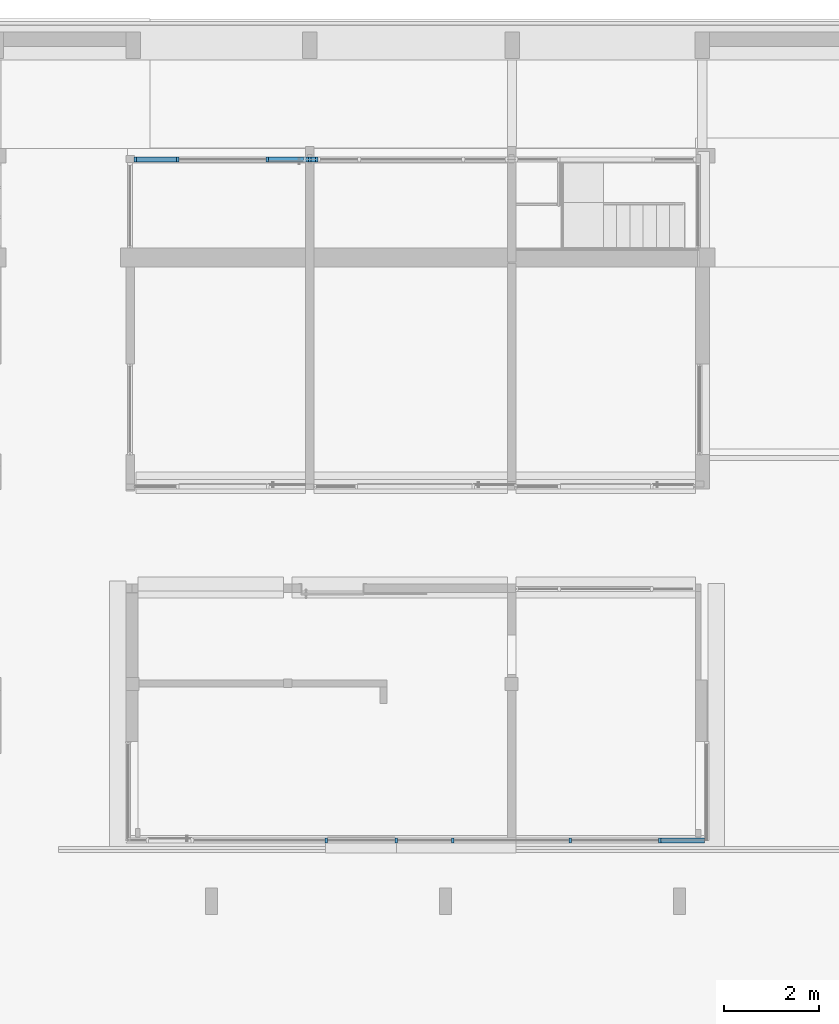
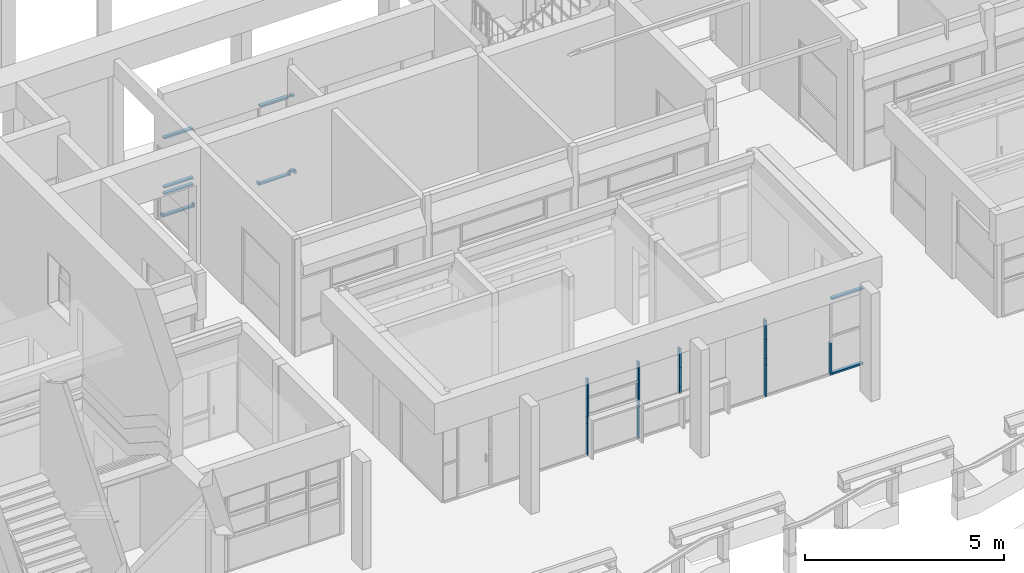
# One storey, part 19 of 117: 32 members, 2 elements without a shape of their own.
"""IFC4 building model written with IfcOpenShell, lengths in metres."""

import ifcopenshell
import ifcopenshell.guid

model = None  # the IFC model being written
_history = None  # IfcOwnerHistory: only IFC2X3 demands one
_inside = {}  # id of a spatial element -> (the spatial element, [elements in it])
_under = {}  # id of a project, library or spatial element -> (it, [spatial elements below it])
_declared = {}  # id of a project -> (the project, [libraries it declares])
_typed = {}  # id of a type object -> (the type object, [elements of that type])
_made_of = {}  # id of a material, layer set ... -> (it, [elements and type objects made of it])


def new_model(schema):
    """Start an empty IFC model of exactly this schema.

    Asked for "IFC4X3", IfcOpenShell would pick the latest addendum, in which some entities
    have other attributes; the version numbers below select the first issue.
    IFC2X3 requires an IfcOwnerHistory on every rooted entity: one is made here for all.
    """
    global model, _history
    if schema == "IFC4X3":
        model = ifcopenshell.file(schema_version=(4, 3, 0, 0))
    else:
        model = ifcopenshell.file(schema=schema)
    _inside.clear()
    _under.clear()
    _declared.clear()
    _typed.clear()
    _made_of.clear()
    _history = None
    if model.schema == "IFC2X3":
        org = make("IfcOrganization", Name="unknown")
        user = make(
            "IfcPersonAndOrganization",
            ThePerson=make("IfcPerson", FamilyName="unknown"),
            TheOrganization=org,
        )
        app = make(
            "IfcApplication",
            ApplicationDeveloper=org,
            Version="unknown",
            ApplicationFullName="unknown",
            ApplicationIdentifier="unknown",
        )
        _history = make(
            "IfcOwnerHistory",
            OwningUser=user,
            OwningApplication=app,
            ChangeAction="ADDED",
            CreationDate=0,
        )
    return model


def make(cls, **values):
    """One entity of the class cls with the attributes given. An attribute that is None is left unset."""
    return model.create_entity(
        cls, **{name: value for name, value in values.items() if value is not None}
    )


def entity(cls, *values):
    """Any entity or typed value of the class cls, its attributes in the order of the schema. None: left unset."""
    e = model.create_entity(cls)
    for i, value in enumerate(values):
        if value is not None:
            e[i] = value
    return e


def rooted(cls, **values):
    """An entity with a GlobalId (a new one), such as an element, a storey or a relation."""
    return make(cls, GlobalId=ifcopenshell.guid.new(), OwnerHistory=_history, **values)


def si_unit(unit_type, name, prefix=None):
    """IfcSIUnit, for example si_unit("LENGTHUNIT", "METRE", prefix="MILLI")."""
    return make("IfcSIUnit", UnitType=unit_type, Prefix=prefix, Name=name)


def converted_unit(unit_type, name, factor, base, dimensions=None, offset=None):
    """IfcConversionBasedUnit, such as the inch: factor (a typed value) times the base unit."""
    return make(
        "IfcConversionBasedUnit"
        if offset is None
        else "IfcConversionBasedUnitWithOffset",
        ConversionOffset=offset,
        Dimensions=None
        if dimensions is None
        else entity("IfcDimensionalExponents", *dimensions),
        UnitType=unit_type,
        Name=name,
        ConversionFactor=make(
            "IfcMeasureWithUnit", ValueComponent=factor, UnitComponent=base
        ),
    )


def derived_unit(unit_type, elements):
    """IfcDerivedUnit: a product of units, each with its exponent."""
    return make(
        "IfcDerivedUnit",
        Elements=[
            make("IfcDerivedUnitElement", Unit=unit, Exponent=power)
            for unit, power in elements
        ],
        UnitType=unit_type,
    )


def assignment(units):
    """IfcUnitAssignment: the units of a project."""
    return None if units is None else make("IfcUnitAssignment", Units=units)


def point(xyz):
    """IfcCartesianPoint."""
    return None if xyz is None else make("IfcCartesianPoint", Coordinates=xyz)


def direction(xyz):
    """IfcDirection."""
    return None if xyz is None else make("IfcDirection", DirectionRatios=xyz)


def frame(location, z_axis=None, x_axis=None):
    """IfcAxis2Placement3D, a coordinate frame: its origin and axes. An axis left out is left unset."""
    return make(
        "IfcAxis2Placement3D",
        Location=point(location),
        Axis=direction(z_axis),
        RefDirection=direction(x_axis),
    )


def origin():
    """The frame at (0, 0, 0) with its axes left unset."""
    return frame((0.0, 0.0, 0.0))


def place(relative_to, where):
    """IfcLocalPlacement: puts the frame where relative to a parent placement (None: the world)."""
    return make(
        "IfcLocalPlacement", PlacementRelTo=relative_to, RelativePlacement=where
    )


def context(
    kind, dimensions, precision=None, world=None, true_north=None, identifier=None
):
    """IfcGeometricRepresentationContext, for example the 3D "Model" context."""
    return make(
        "IfcGeometricRepresentationContext",
        ContextIdentifier=identifier,
        ContextType=kind,
        CoordinateSpaceDimension=dimensions,
        Precision=precision,
        WorldCoordinateSystem=world,
        TrueNorth=true_north,
    )


def subcontext(parent, identifier, kind, view, scale=None):
    """IfcGeometricRepresentationSubContext, for example "Body" below "Model"."""
    return make(
        "IfcGeometricRepresentationSubContext",
        ContextIdentifier=identifier,
        ContextType=kind,
        ParentContext=parent,
        TargetScale=scale,
        TargetView=view,
    )


def project(units=None, contexts=None):
    """IfcProject with its units and contexts."""
    return rooted(
        "IfcProject",
        Name="project",
        RepresentationContexts=contexts,
        UnitsInContext=assignment(units),
    )


def spatial(cls, under=None, at=None, **own):
    """A site, building, storey or space (cls), placed at a placement, below another one or the project."""
    s = rooted(cls, ObjectPlacement=at, **own)
    if under is not None:
        _under.setdefault(under.id(), (under, []))[1].append(s)
    return s


def point_list(points):
    """IfcCartesianPointList2D or 3D."""
    cls = (
        "IfcCartesianPointList2D" if len(points[0]) == 2 else "IfcCartesianPointList3D"
    )
    return make(cls, CoordList=points)


def indexed_curve(points, segments=None, self_intersect=None):
    """IfcIndexedPolyCurve: lines and arcs through numbered points (the first is 1)."""
    return make(
        "IfcIndexedPolyCurve",
        Points=point_list(points),
        Segments=segments,
        SelfIntersect=self_intersect,
    )


def outline(outer, holes=None, kind="AREA"):
    """IfcArbitraryClosedProfileDef: a profile drawn as a closed curve; with holes, ...WithVoids."""
    if holes is None:
        return make("IfcArbitraryClosedProfileDef", ProfileType=kind, OuterCurve=outer)
    return make(
        "IfcArbitraryProfileDefWithVoids",
        ProfileType=kind,
        OuterCurve=outer,
        InnerCurves=holes,
    )


def extrude(swept, where, along, depth):
    """IfcExtrudedAreaSolid: the profile swept, set in the frame where, extruded along a direction by depth."""
    return make(
        "IfcExtrudedAreaSolid",
        SweptArea=swept,
        Position=where,
        ExtrudedDirection=direction(along),
        Depth=depth,
    )


def shape(context_of_items, identifier, shape_type, items):
    """IfcShapeRepresentation: the items that make up one representation, for example the "Body"."""
    return make(
        "IfcShapeRepresentation",
        ContextOfItems=context_of_items,
        RepresentationIdentifier=identifier,
        RepresentationType=shape_type,
        Items=items,
    )


def source(mapping_origin, context_of_items, identifier, shape_type, items):
    """IfcRepresentationMap: a shape defined once, which mapped items show again and again."""
    return make(
        "IfcRepresentationMap",
        MappingOrigin=mapping_origin,
        MappedRepresentation=shape(context_of_items, identifier, shape_type, items),
    )


def transform(
    local_origin,
    x_axis=None,
    y_axis=None,
    z_axis=None,
    scale=None,
    scale2=None,
    scale3=None,
    uniform=True,
):
    """IfcCartesianTransformationOperator3D, or its non-uniform kind. x_axis, y_axis, z_axis: its Axis1, 2, 3."""
    if uniform:
        return make(
            "IfcCartesianTransformationOperator3D",
            Axis1=direction(x_axis),
            Axis2=direction(y_axis),
            LocalOrigin=point(local_origin),
            Scale=scale,
            Axis3=direction(z_axis),
        )
    return make(
        "IfcCartesianTransformationOperator3DnonUniform",
        Axis1=direction(x_axis),
        Axis2=direction(y_axis),
        LocalOrigin=point(local_origin),
        Scale=scale,
        Axis3=direction(z_axis),
        Scale2=scale2,
        Scale3=scale3,
    )


def mapped(mapping_source, mapping_target):
    """IfcMappedItem: shows the shape of a source again, moved by a transform."""
    return make(
        "IfcMappedItem", MappingSource=mapping_source, MappingTarget=mapping_target
    )


def material(Name=None, Category=None):
    """IfcMaterial."""
    return make("IfcMaterial", Name=Name, Category=Category)


def made_of(thing, what):
    """Note that an element or type object is made of a material, layer set ...; save() writes the relation."""
    if what is not None:
        _made_of.setdefault(what.id(), (what, []))[1].append(thing)
    return thing


def type_object(cls, material=None, **own):
    """A type object (cls), such as IfcWallType, which elements share."""
    return made_of(rooted(cls, **own), material)


def type_shapes(of_type, sources):
    """Give a type object the sources (RepresentationMaps) that its elements show as mapped items."""
    of_type.RepresentationMaps = sources


def element(
    cls,
    number,
    at=None,
    inside=None,
    cuts=None,
    type_object=None,
    material=None,
    context=None,
    identifier="Body",
    shape_type=None,
    held_by="IfcProductDefinitionShape",
    body=None,
    shapes=None,
    **own,
):
    """One element of the class cls, such as IfcWall. Its Tag is "e" and its number.

    at: its placement. inside: the storey or other place that contains it. cuts: it is an
    opening in that element (IfcRelVoidsElement). A single representation is given by context,
    identifier, shape_type and body (its items); several are given by shapes. held_by: the class
    of the entity that holds the representations. save() writes the other relations.
    """
    e = rooted(cls, Tag="e%d" % number, ObjectPlacement=at, **own)
    if body is not None:
        shapes = [shape(context, identifier, shape_type, body)]
    if shapes is not None:
        e.Representation = make(held_by, Representations=shapes)
    if inside is not None:
        _inside.setdefault(inside.id(), (inside, []))[1].append(e)
    if cuts is not None:
        rooted(
            "IfcRelVoidsElement", RelatingBuildingElement=cuts, RelatedOpeningElement=e
        )
    if type_object is not None:
        _typed.setdefault(type_object.id(), (type_object, []))[1].append(e)
    return made_of(e, material)


def aggregate(whole, parts):
    """IfcRelAggregates: a whole, such as a stair, and the parts it consists of."""
    return rooted("IfcRelAggregates", RelatingObject=whole, RelatedObjects=parts)


def save(model, path):
    """Write the relations noted so far, then the file.

    IfcRelAggregates (storeys below a building ...), IfcRelContainedInSpatialStructure (elements
    in a storey), IfcRelDefinesByType, IfcRelAssociatesMaterial and IfcRelDeclares: one each for
    every whole, place, type object, material and project.
    """
    for whole, parts in _under.values():
        aggregate(whole, parts)
    for where, things in _inside.values():
        rooted(
            "IfcRelContainedInSpatialStructure",
            RelatedElements=things,
            RelatingStructure=where,
        )
    for kind, things in _typed.values():
        rooted("IfcRelDefinesByType", RelatedObjects=things, RelatingType=kind)
    for what, things in _made_of.values():
        rooted("IfcRelAssociatesMaterial", RelatedObjects=things, RelatingMaterial=what)
    for by, libraries in _declared.values():
        rooted("IfcRelDeclares", RelatingContext=by, RelatedDefinitions=libraries)
    model.write(path)


model = new_model("IFC4")

# Units and contexts
model_context = context("Model", 3, precision=1e-05, world=origin(), true_north=direction((6.123031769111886e-17, 1.0)))
body_context = subcontext(model_context, "Body", "Model", "MODEL_VIEW")
ifc_project = project(units=[si_unit("LENGTHUNIT", "METRE"), si_unit("AREAUNIT", "SQUARE_METRE"), si_unit("VOLUMEUNIT", "CUBIC_METRE"), converted_unit("PLANEANGLEUNIT", "DEGREE", entity("IfcRatioMeasure", 0.017453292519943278), si_unit("PLANEANGLEUNIT", "RADIAN"), dimensions=[0, 0, 0, 0, 0, 0, 0]), si_unit("MASSUNIT", "GRAM", prefix="KILO"), derived_unit("MASSDENSITYUNIT", [(si_unit("MASSUNIT", "GRAM", prefix="KILO"), 1), (si_unit("LENGTHUNIT", "METRE"), -3)]), derived_unit("MOMENTOFINERTIAUNIT", [(si_unit("LENGTHUNIT", "METRE"), 4)]), si_unit("TIMEUNIT", "SECOND"), si_unit("FREQUENCYUNIT", "HERTZ"), si_unit("THERMODYNAMICTEMPERATUREUNIT", "DEGREE_CELSIUS"), derived_unit("THERMALTRANSMITTANCEUNIT", [(si_unit("MASSUNIT", "GRAM", prefix="KILO"), 1), (si_unit("THERMODYNAMICTEMPERATUREUNIT", "KELVIN"), -1), (si_unit("TIMEUNIT", "SECOND"), -3)]), derived_unit("VOLUMETRICFLOWRATEUNIT", [(si_unit("LENGTHUNIT", "METRE"), 3), (si_unit("TIMEUNIT", "SECOND"), -1)]), derived_unit("MASSFLOWRATEUNIT", [(si_unit("MASSUNIT", "GRAM", prefix="KILO"), 1), (si_unit("TIMEUNIT", "SECOND"), -1)]), derived_unit("ROTATIONALFREQUENCYUNIT", [(si_unit("TIMEUNIT", "SECOND"), -1)]), si_unit("ELECTRICCURRENTUNIT", "AMPERE"), si_unit("ELECTRICVOLTAGEUNIT", "VOLT"), si_unit("POWERUNIT", "WATT"), si_unit("FORCEUNIT", "NEWTON", prefix="KILO"), si_unit("ILLUMINANCEUNIT", "LUX"), si_unit("LUMINOUSFLUXUNIT", "LUMEN"), si_unit("LUMINOUSINTENSITYUNIT", "CANDELA"), derived_unit("USERDEFINED", [(si_unit("MASSUNIT", "GRAM", prefix="KILO"), -1), (si_unit("LENGTHUNIT", "METRE"), -2), (si_unit("TIMEUNIT", "SECOND"), 3), (si_unit("LUMINOUSFLUXUNIT", "LUMEN"), 1)]), derived_unit("SOUNDPOWERUNIT", [(si_unit("MASSUNIT", "GRAM", prefix="KILO"), 1), (si_unit("LENGTHUNIT", "METRE"), 2), (si_unit("TIMEUNIT", "SECOND"), -3)]), derived_unit("SOUNDPRESSUREUNIT", [(si_unit("MASSUNIT", "GRAM", prefix="KILO"), 1), (si_unit("LENGTHUNIT", "METRE"), -1), (si_unit("TIMEUNIT", "SECOND"), -2)]), derived_unit("LINEARVELOCITYUNIT", [(si_unit("LENGTHUNIT", "METRE"), 1), (si_unit("TIMEUNIT", "SECOND"), -1)]), si_unit("PRESSUREUNIT", "PASCAL"), derived_unit("USERDEFINED", [(si_unit("LENGTHUNIT", "METRE"), -2), (si_unit("MASSUNIT", "GRAM", prefix="KILO"), 1), (si_unit("TIMEUNIT", "SECOND"), -2)]), derived_unit("LINEARFORCEUNIT", [(si_unit("MASSUNIT", "GRAM", prefix="KILO"), 1), (si_unit("LENGTHUNIT", "METRE"), 1), (si_unit("TIMEUNIT", "SECOND"), -2), (si_unit("LENGTHUNIT", "METRE"), -1)]), derived_unit("PLANARFORCEUNIT", [(si_unit("MASSUNIT", "GRAM", prefix="KILO"), 1), (si_unit("LENGTHUNIT", "METRE"), 1), (si_unit("TIMEUNIT", "SECOND"), -2), (si_unit("LENGTHUNIT", "METRE"), -2)])], contexts=[model_context])

# Site, building, storey
site_placement = place(None, origin())
site = spatial("IfcSite", under=ifc_project, at=site_placement, Name="Superficie", CompositionType="ELEMENT")
building_placement = place(site_placement, origin())
building = spatial("IfcBuilding", under=site, at=building_placement, CompositionType="ELEMENT")
storey_placement = place(building_placement, origin())
storey = spatial("IfcBuildingStorey", under=building, at=storey_placement, Name="Nivel 0", CompositionType="ELEMENT", Elevation=0.0)

# Curtain wall, members
curtain_wall_type = type_object("IfcCurtainWallType", Name="Muro cortina:Muro cortina - simple", PredefinedType="NOTDEFINED")
curtain_wall_1_placement = place(storey_placement, origin())
curtain_wall_1 = element("IfcCurtainWall", 1, at=curtain_wall_1_placement, inside=storey, type_object=curtain_wall_type, Name="Muro cortina:Muro cortina - simple", ObjectType="Muro cortina:Muro cortina - simple", PredefinedType="NOTDEFINED")
ifc_material = material(Name="<Unnamed>")
member_type_1 = type_object("IfcMemberType", Name="Montante rectangular:Montante rectangular - 5 x 10 cm", PredefinedType="MULLION", material=ifc_material)
shared_shape_1 = source(origin(), body_context, "Body", "SweptSolid", [
    extrude(outline(indexed_curve([(-0.05, -0.025), (0.05, -0.025), (0.05, 0.025), (-0.05, 0.025), (-0.05, -0.025)], self_intersect=False)), frame((-0.025, 0.0, -0.8500000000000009), z_axis=(0.0, 0.0, 1.0), x_axis=(0.0, -1.0, 0.0)), (0.0, 0.0, 1.0), 0.849999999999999),
])
type_shapes(member_type_1, [shared_shape_1])
member_1_placement = place(curtain_wall_1_placement, frame((-12.487388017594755, 12.640829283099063, 2.44), z_axis=(-1.0, 0.0, 0.0), x_axis=(0.0, 0.0, 1.0)))
member_1 = element("IfcMember", 2, at=member_1_placement, type_object=member_type_1, material=ifc_material, Name="Montante rectangular:Montante rectangular - 5 x 10 cm", ObjectType="Montante rectangular:Montante rectangular - 5 x 10 cm", PredefinedType="MULLION", context=body_context, shape_type="MappedRepresentation", body=[
    mapped(shared_shape_1, transform((0.0, 0.0, 0.0), scale=1.0)),
])
member_2_placement = place(curtain_wall_1_placement, frame((-15.277388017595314, 12.640829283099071, 2.44), z_axis=(-1.0, 0.0, 0.0), x_axis=(0.0, 0.0, 1.0)))
member_2 = element("IfcMember", 3, at=member_2_placement, type_object=member_type_1, material=ifc_material, Name="Montante rectangular:Montante rectangular - 5 x 10 cm", ObjectType="Montante rectangular:Montante rectangular - 5 x 10 cm", PredefinedType="MULLION", context=body_context, shape_type="MappedRepresentation", body=[
    mapped(shared_shape_1, transform((0.0, 0.0, 0.0), scale=1.0)),
])
member_type_2 = type_object("IfcMemberType", Name="Montante rectangular:Montante rectangular - 5 x 10 cm", PredefinedType="MULLION", material=ifc_material)
shared_shape_2 = source(origin(), body_context, "Body", "SweptSolid", [
    extrude(outline(indexed_curve([(-0.05, -0.025), (0.05, -0.025), (0.05, 0.025), (-0.05, 0.025), (-0.05, -0.025)], self_intersect=False)), frame((0.0, 0.0, -0.8500000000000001), z_axis=(0.0, 0.0, 1.0), x_axis=(0.0, -1.0, 0.0)), (0.0, 0.0, 1.0), 0.8500000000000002),
])
type_shapes(member_type_2, [shared_shape_2])
member_3_placement = place(curtain_wall_1_placement, frame((-15.277388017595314, 12.640829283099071, 0.8999999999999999), z_axis=(-1.0, 0.0, 0.0), x_axis=(0.0, 0.0, 1.0)))
member_3 = element("IfcMember", 4, at=member_3_placement, type_object=member_type_2, material=ifc_material, Name="Montante rectangular:Montante rectangular - 5 x 10 cm", ObjectType="Montante rectangular:Montante rectangular - 5 x 10 cm", PredefinedType="MULLION", context=body_context, shape_type="MappedRepresentation", body=[
    mapped(shared_shape_2, transform((0.0, 0.0, 0.0), scale=1.0)),
])
member_4_placement = place(curtain_wall_1_placement, frame((-15.277388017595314, 12.640829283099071, 0.7), z_axis=(-1.0, 0.0, 0.0), x_axis=(0.0, 0.0, 1.0)))
member_4 = element("IfcMember", 5, at=member_4_placement, type_object=member_type_2, material=ifc_material, Name="Montante rectangular:Montante rectangular - 5 x 10 cm", ObjectType="Montante rectangular:Montante rectangular - 5 x 10 cm", PredefinedType="MULLION", context=body_context, shape_type="MappedRepresentation", body=[
    mapped(shared_shape_2, transform((0.0, 0.0, 0.0), scale=1.0)),
])

curtain_wall_2_placement = place(storey_placement, origin())
curtain_wall_2 = element("IfcCurtainWall", 6, at=curtain_wall_2_placement, inside=storey, type_object=curtain_wall_type, Name="Muro cortina:Muro cortina - simple", ObjectType="Muro cortina:Muro cortina - simple", PredefinedType="NOTDEFINED")
member_type_3 = type_object("IfcMemberType", Name="Montante rectangular:Montante rectangular - 5 x 10 cm", PredefinedType="MULLION", material=ifc_material)
shared_shape_3 = source(origin(), body_context, "Body", "SweptSolid", [
    extrude(outline(indexed_curve([(-0.05, -0.025), (0.05, -0.025), (0.05, 0.025), (-0.05, 0.025), (-0.05, -0.025)], self_intersect=False)), frame((0.0, 0.0, -0.19999999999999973), z_axis=(0.0, 0.0, 1.0), x_axis=(0.0, -1.0, 0.0)), (0.0, 0.0, 1.0), 0.19999999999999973),
])
type_shapes(member_type_3, [shared_shape_3])
member_5_placement = place(curtain_wall_2_placement, frame((-9.784766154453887, -1.7641707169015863, 0.9750000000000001), z_axis=(0.0, 0.0, -1.0), x_axis=(1.0, 0.0, 0.0)))
member_5 = element("IfcMember", 7, at=member_5_placement, type_object=member_type_3, material=ifc_material, Name="Montante rectangular:Montante rectangular - 5 x 10 cm", ObjectType="Montante rectangular:Montante rectangular - 5 x 10 cm", PredefinedType="MULLION", context=body_context, shape_type="MappedRepresentation", body=[
    mapped(shared_shape_3, transform((0.0, 0.0, 0.0), scale=1.0)),
])
member_type_4 = type_object("IfcMemberType", Name="Montante rectangular:Montante rectangular - 5 x 10 cm", PredefinedType="MULLION", material=ifc_material)
shared_shape_4 = source(origin(), body_context, "Body", "SweptSolid", [
    extrude(outline(indexed_curve([(-0.05, -0.025), (0.05, -0.025), (0.05, 0.025), (-0.05, 0.025), (-0.05, -0.025)], self_intersect=False)), frame((0.0, 0.0, -0.2), z_axis=(0.0, 0.0, 1.0), x_axis=(0.0, -1.0, 0.0)), (0.0, 0.0, 1.0), 0.2),
])
type_shapes(member_type_4, [shared_shape_4])
member_6_placement = place(curtain_wall_2_placement, frame((-6.098029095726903, -1.7641707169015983, 0.9750000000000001), z_axis=(0.0, 0.0, -1.0), x_axis=(1.0, 0.0, 0.0)))
member_6 = element("IfcMember", 8, at=member_6_placement, type_object=member_type_4, material=ifc_material, Name="Montante rectangular:Montante rectangular - 5 x 10 cm", ObjectType="Montante rectangular:Montante rectangular - 5 x 10 cm", PredefinedType="MULLION", context=body_context, shape_type="MappedRepresentation", body=[
    mapped(shared_shape_4, transform((0.0, 0.0, 0.0), scale=1.0)),
])
member_type_5 = type_object("IfcMemberType", Name="Montante rectangular:Montante rectangular - 5 x 10 cm", PredefinedType="MULLION", material=ifc_material)
shared_shape_5 = source(origin(), body_context, "Body", "SweptSolid", [
    extrude(outline(indexed_curve([(-0.05, -0.025), (0.05, -0.025), (0.05, 0.025), (-0.05, 0.025), (-0.05, -0.025)], self_intersect=False)), frame((0.0, 0.0, -0.2), z_axis=(0.0, 0.0, 1.0), x_axis=(0.0, -1.0, 0.0)), (0.0, 0.0, 1.0), 0.2),
])
type_shapes(member_type_5, [shared_shape_5])
member_7_placement = place(curtain_wall_2_placement, frame((-11.264766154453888, -1.7641707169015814, 0.9750000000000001), z_axis=(0.0, 0.0, -1.0), x_axis=(1.0, 0.0, 0.0)))
member_7 = element("IfcMember", 9, at=member_7_placement, type_object=member_type_5, material=ifc_material, Name="Montante rectangular:Montante rectangular - 5 x 10 cm", ObjectType="Montante rectangular:Montante rectangular - 5 x 10 cm", PredefinedType="MULLION", context=body_context, shape_type="MappedRepresentation", body=[
    mapped(shared_shape_5, transform((0.0, 0.0, 0.0), scale=1.0)),
])
member_type_6 = type_object("IfcMemberType", Name="Montante rectangular:Montante rectangular - 5 x 10 cm", PredefinedType="MULLION", material=ifc_material)
shared_shape_6 = source(origin(), body_context, "Body", "SweptSolid", [
    extrude(outline(indexed_curve([(-0.05, -0.025), (0.05, -0.025), (0.05, 0.025), (-0.05, 0.025), (-0.05, -0.025)], self_intersect=False)), frame((-0.025, 0.0, -0.9198281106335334), z_axis=(0.0, 0.0, 1.0), x_axis=(0.0, -1.0, 0.0)), (0.0, 0.0, 1.0), 0.9198281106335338),
])
type_shapes(member_type_6, [shared_shape_6])
member_8_placement = place(curtain_wall_2_placement, frame((-3.2632009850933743, -1.7641707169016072, 2.35), z_axis=(1.0, 0.0, 0.0), x_axis=(0.0, 0.0, 1.0)))
member_8 = element("IfcMember", 10, at=member_8_placement, type_object=member_type_6, material=ifc_material, Name="Montante rectangular:Montante rectangular - 5 x 10 cm", ObjectType="Montante rectangular:Montante rectangular - 5 x 10 cm", PredefinedType="MULLION", context=body_context, shape_type="MappedRepresentation", body=[
    mapped(shared_shape_6, transform((0.0, 0.0, 0.0), scale=1.0)),
])
member_type_7 = type_object("IfcMemberType", Name="Montante rectangular:Montante rectangular - 5 x 10 cm", PredefinedType="MULLION", material=ifc_material)
shared_shape_7 = source(origin(), body_context, "Body", "SweptSolid", [
    extrude(outline(indexed_curve([(-0.05, -0.025), (0.05, -0.025), (0.05, 0.025), (-0.05, 0.025), (-0.05, -0.025)], self_intersect=False)), frame((0.0, 0.0, -0.9750000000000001), z_axis=(0.0, 0.0, 1.0), x_axis=(0.0, -1.0, 0.0)), (0.0, 0.0, 1.0), 0.9750000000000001),
])
type_shapes(member_type_7, [shared_shape_7])
member_9_placement = place(curtain_wall_2_placement, frame((-11.264766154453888, -1.7641707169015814, 0.0), z_axis=(0.0, 0.0, -1.0), x_axis=(1.0, 0.0, 0.0)))
member_9 = element("IfcMember", 11, at=member_9_placement, type_object=member_type_7, material=ifc_material, Name="Montante rectangular:Montante rectangular - 5 x 10 cm", ObjectType="Montante rectangular:Montante rectangular - 5 x 10 cm", PredefinedType="MULLION", context=body_context, shape_type="MappedRepresentation", body=[
    mapped(shared_shape_7, transform((0.0, 0.0, 0.0), scale=1.0)),
])
member_10_placement = place(curtain_wall_2_placement, frame((-6.098029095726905, -1.7641707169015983, 0.0), z_axis=(0.0, 0.0, -1.0), x_axis=(1.0, 0.0, 0.0)))
member_10 = element("IfcMember", 12, at=member_10_placement, type_object=member_type_7, material=ifc_material, Name="Montante rectangular:Montante rectangular - 5 x 10 cm", ObjectType="Montante rectangular:Montante rectangular - 5 x 10 cm", PredefinedType="MULLION", context=body_context, shape_type="MappedRepresentation", body=[
    mapped(shared_shape_7, transform((0.0, 0.0, 0.0), scale=1.0)),
])
member_11_placement = place(curtain_wall_2_placement, frame((-4.208029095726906, -1.7641707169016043, 0.0), z_axis=(0.0, 0.0, -1.0), x_axis=(1.0, 0.0, 0.0)))
member_11 = element("IfcMember", 13, at=member_11_placement, type_object=member_type_7, material=ifc_material, Name="Montante rectangular:Montante rectangular - 5 x 10 cm", ObjectType="Montante rectangular:Montante rectangular - 5 x 10 cm", PredefinedType="MULLION", context=body_context, shape_type="MappedRepresentation", body=[
    mapped(shared_shape_7, transform((0.0, 0.0, 0.0), scale=1.0)),
])
member_type_8 = type_object("IfcMemberType", Name="Montante rectangular:Montante rectangular - 5 x 10 cm", PredefinedType="MULLION", material=ifc_material)
shared_shape_8 = source(origin(), body_context, "Body", "SweptSolid", [
    extrude(outline(indexed_curve([(-0.05, -0.025), (0.05, -0.025), (0.05, 0.025), (-0.05, 0.025), (-0.05, -0.025)], self_intersect=False)), frame((-0.025, 0.0, -0.9198281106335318), z_axis=(0.0, 0.0, 1.0), x_axis=(0.0, -1.0, 0.0)), (0.0, 0.0, 1.0), 0.9198281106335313),
])
type_shapes(member_type_8, [shared_shape_8])
member_12_placement = place(curtain_wall_2_placement, frame((-4.183029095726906, -1.7641707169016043, 0.0), z_axis=(-1.0, 0.0, 0.0), x_axis=(0.0, 0.0, -1.0)))
member_12 = element("IfcMember", 14, at=member_12_placement, type_object=member_type_8, material=ifc_material, Name="Montante rectangular:Montante rectangular - 5 x 10 cm", ObjectType="Montante rectangular:Montante rectangular - 5 x 10 cm", PredefinedType="MULLION", context=body_context, shape_type="MappedRepresentation", body=[
    mapped(shared_shape_8, transform((0.0, 0.0, 0.0), scale=1.0)),
])
member_type_9 = type_object("IfcMemberType", Name="Montante rectangular:Montante rectangular - 5 x 10 cm", PredefinedType="MULLION", material=ifc_material)
shared_shape_9 = source(origin(), body_context, "Body", "SweptSolid", [
    extrude(outline(indexed_curve([(-0.05, -0.025), (0.05, -0.025), (0.05, 0.025), (-0.05, 0.025), (-0.05, -0.025)], self_intersect=False)), frame((0.0, 0.0, -0.9750000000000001), z_axis=(0.0, 0.0, 1.0), x_axis=(0.0, -1.0, 0.0)), (0.0, 0.0, 1.0), 0.9750000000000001),
])
type_shapes(member_type_9, [shared_shape_9])
member_13_placement = place(curtain_wall_2_placement, frame((-9.784766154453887, -1.7641707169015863, 0.0), z_axis=(0.0, 0.0, -1.0), x_axis=(1.0, 0.0, 0.0)))
member_13 = element("IfcMember", 15, at=member_13_placement, type_object=member_type_9, material=ifc_material, Name="Montante rectangular:Montante rectangular - 5 x 10 cm", ObjectType="Montante rectangular:Montante rectangular - 5 x 10 cm", PredefinedType="MULLION", context=body_context, shape_type="MappedRepresentation", body=[
    mapped(shared_shape_9, transform((0.0, 0.0, 0.0), scale=1.0)),
])
member_type_10 = type_object("IfcMemberType", Name="Montante rectangular:Montante rectangular - 5 x 10 cm", PredefinedType="MULLION", material=ifc_material)
shared_shape_10 = source(origin(), body_context, "Body", "SweptSolid", [
    extrude(outline(indexed_curve([(-0.05, -0.025), (0.05, -0.025), (0.05, 0.025), (-0.05, 0.025), (-0.05, -0.025)], self_intersect=False)), frame((0.0, 0.0, -0.5874999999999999), z_axis=(0.0, 0.0, 1.0), x_axis=(0.0, -1.0, 0.0)), (0.0, 0.0, 1.0), 0.5874999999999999),
])
type_shapes(member_type_10, [shared_shape_10])
member_14_placement = place(curtain_wall_2_placement, frame((-11.26476615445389, -1.7641707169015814, 1.175), z_axis=(0.0, 0.0, -1.0), x_axis=(1.0, 0.0, 0.0)))
member_14 = element("IfcMember", 16, at=member_14_placement, type_object=member_type_10, material=ifc_material, Name="Montante rectangular:Montante rectangular - 5 x 10 cm", ObjectType="Montante rectangular:Montante rectangular - 5 x 10 cm", PredefinedType="MULLION", context=body_context, shape_type="MappedRepresentation", body=[
    mapped(shared_shape_10, transform((0.0, 0.0, 0.0), scale=1.0)),
])
member_15_placement = place(curtain_wall_2_placement, frame((-9.784766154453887, -1.7641707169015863, 1.175), z_axis=(0.0, 0.0, -1.0), x_axis=(1.0, 0.0, 0.0)))
member_15 = element("IfcMember", 17, at=member_15_placement, type_object=member_type_10, material=ifc_material, Name="Montante rectangular:Montante rectangular - 5 x 10 cm", ObjectType="Montante rectangular:Montante rectangular - 5 x 10 cm", PredefinedType="MULLION", context=body_context, shape_type="MappedRepresentation", body=[
    mapped(shared_shape_10, transform((0.0, 0.0, 0.0), scale=1.0)),
])
member_type_11 = type_object("IfcMemberType", Name="Montante rectangular:Montante rectangular - 5 x 10 cm", PredefinedType="MULLION", material=ifc_material)
shared_shape_11 = source(origin(), body_context, "Body", "SweptSolid", [
    extrude(outline(indexed_curve([(-0.05, -0.025), (0.05, -0.025), (0.05, 0.025), (-0.05, 0.025), (-0.05, -0.025)], self_intersect=False)), frame((0.0, 0.0, -0.5874999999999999), z_axis=(0.0, 0.0, 1.0), x_axis=(0.0, -1.0, 0.0)), (0.0, 0.0, 1.0), 0.5874999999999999),
])
type_shapes(member_type_11, [shared_shape_11])
member_16_placement = place(curtain_wall_2_placement, frame((-6.098029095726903, -1.7641707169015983, 1.175), z_axis=(0.0, 0.0, -1.0), x_axis=(1.0, 0.0, 0.0)))
member_16 = element("IfcMember", 18, at=member_16_placement, type_object=member_type_11, material=ifc_material, Name="Montante rectangular:Montante rectangular - 5 x 10 cm", ObjectType="Montante rectangular:Montante rectangular - 5 x 10 cm", PredefinedType="MULLION", context=body_context, shape_type="MappedRepresentation", body=[
    mapped(shared_shape_11, transform((0.0, 0.0, 0.0), scale=1.0)),
])
member_17_placement = place(curtain_wall_2_placement, frame((-8.58476615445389, -1.76417071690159, 1.175), z_axis=(0.0, 0.0, -1.0), x_axis=(1.0, 0.0, 0.0)))
member_17 = element("IfcMember", 19, at=member_17_placement, type_object=member_type_11, material=ifc_material, Name="Montante rectangular:Montante rectangular - 5 x 10 cm", ObjectType="Montante rectangular:Montante rectangular - 5 x 10 cm", PredefinedType="MULLION", context=body_context, shape_type="MappedRepresentation", body=[
    mapped(shared_shape_11, transform((0.0, 0.0, 0.0), scale=1.0)),
])
member_type_12 = type_object("IfcMemberType", Name="Montante rectangular:Montante rectangular - 5 x 10 cm", PredefinedType="MULLION", material=ifc_material)
shared_shape_12 = source(origin(), body_context, "Body", "SweptSolid", [
    extrude(outline(indexed_curve([(-0.05, -0.025), (0.05, -0.025), (0.05, 0.025), (-0.05, 0.025), (-0.05, -0.025)], self_intersect=False)), frame((0.0, 0.0, -0.225), z_axis=(0.0, 0.0, 1.0), x_axis=(0.0, -1.0, 0.0)), (0.0, 0.0, 1.0), 0.225),
])
type_shapes(member_type_12, [shared_shape_12])
member_18_placement = place(curtain_wall_2_placement, frame((-8.584766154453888, -1.76417071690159, 0.9500000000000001), z_axis=(0.0, 0.0, -1.0), x_axis=(1.0, 0.0, 0.0)))
member_18 = element("IfcMember", 20, at=member_18_placement, type_object=member_type_12, material=ifc_material, Name="Montante rectangular:Montante rectangular - 5 x 10 cm", ObjectType="Montante rectangular:Montante rectangular - 5 x 10 cm", PredefinedType="MULLION", context=body_context, shape_type="MappedRepresentation", body=[
    mapped(shared_shape_12, transform((0.0, 0.0, 0.0), scale=1.0)),
])
member_type_13 = type_object("IfcMemberType", Name="Montante rectangular:Montante rectangular - 5 x 10 cm", PredefinedType="MULLION", material=ifc_material)
shared_shape_13 = source(origin(), body_context, "Body", "SweptSolid", [
    extrude(outline(indexed_curve([(-0.05, -0.025), (0.05, -0.025), (0.05, 0.025), (-0.05, 0.025), (-0.05, -0.025)], self_intersect=False)), frame((0.0, 0.0, -0.5875000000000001), z_axis=(0.0, 0.0, 1.0), x_axis=(0.0, -1.0, 0.0)), (0.0, 0.0, 1.0), 0.5875000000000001),
])
type_shapes(member_type_13, [shared_shape_13])
member_19_placement = place(curtain_wall_2_placement, frame((-11.26476615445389, -1.7641707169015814, 1.7625), z_axis=(0.0, 0.0, -1.0), x_axis=(1.0, 0.0, 0.0)))
member_19 = element("IfcMember", 21, at=member_19_placement, type_object=member_type_13, material=ifc_material, Name="Montante rectangular:Montante rectangular - 5 x 10 cm", ObjectType="Montante rectangular:Montante rectangular - 5 x 10 cm", PredefinedType="MULLION", context=body_context, shape_type="MappedRepresentation", body=[
    mapped(shared_shape_13, transform((0.0, 0.0, 0.0), scale=1.0)),
])
member_20_placement = place(curtain_wall_2_placement, frame((-9.784766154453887, -1.7641707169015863, 1.7625), z_axis=(0.0, 0.0, -1.0), x_axis=(1.0, 0.0, 0.0)))
member_20 = element("IfcMember", 22, at=member_20_placement, type_object=member_type_13, material=ifc_material, Name="Montante rectangular:Montante rectangular - 5 x 10 cm", ObjectType="Montante rectangular:Montante rectangular - 5 x 10 cm", PredefinedType="MULLION", context=body_context, shape_type="MappedRepresentation", body=[
    mapped(shared_shape_13, transform((0.0, 0.0, 0.0), scale=1.0)),
])
member_type_14 = type_object("IfcMemberType", Name="Montante rectangular:Montante rectangular - 5 x 10 cm", PredefinedType="MULLION", material=ifc_material)
shared_shape_14 = source(origin(), body_context, "Body", "SweptSolid", [
    extrude(outline(indexed_curve([(-0.05, -0.025), (0.05, -0.025), (0.05, 0.025), (-0.05, 0.025), (-0.05, -0.025)], self_intersect=False)), frame((0.0, 0.0, -0.5875000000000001), z_axis=(0.0, 0.0, 1.0), x_axis=(0.0, -1.0, 0.0)), (0.0, 0.0, 1.0), 0.5875000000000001),
])
type_shapes(member_type_14, [shared_shape_14])
member_21_placement = place(curtain_wall_2_placement, frame((-6.098029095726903, -1.7641707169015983, 1.7625), z_axis=(0.0, 0.0, -1.0), x_axis=(1.0, 0.0, 0.0)))
member_21 = element("IfcMember", 23, at=member_21_placement, type_object=member_type_14, material=ifc_material, Name="Montante rectangular:Montante rectangular - 5 x 10 cm", ObjectType="Montante rectangular:Montante rectangular - 5 x 10 cm", PredefinedType="MULLION", context=body_context, shape_type="MappedRepresentation", body=[
    mapped(shared_shape_14, transform((0.0, 0.0, 0.0), scale=1.0)),
])
member_22_placement = place(curtain_wall_2_placement, frame((-8.584766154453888, -1.76417071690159, 1.7625), z_axis=(0.0, 0.0, -1.0), x_axis=(1.0, 0.0, 0.0)))
member_22 = element("IfcMember", 24, at=member_22_placement, type_object=member_type_14, material=ifc_material, Name="Montante rectangular:Montante rectangular - 5 x 10 cm", ObjectType="Montante rectangular:Montante rectangular - 5 x 10 cm", PredefinedType="MULLION", context=body_context, shape_type="MappedRepresentation", body=[
    mapped(shared_shape_14, transform((0.0, 0.0, 0.0), scale=1.0)),
])
aggregate(curtain_wall_2, [member_8, member_9, member_12, member_10, member_11, member_13, member_14, member_16, member_15, member_7, member_6, member_5, member_18, member_17, member_19, member_21, member_20, member_22])

# Member
member_type_15 = type_object("IfcMemberType", Name="Montante rectangular:Montante rectangular - 5 x 10 cm", PredefinedType="MULLION", material=ifc_material)
shared_shape_15 = source(origin(), body_context, "Body", "SweptSolid", [
    extrude(outline(indexed_curve([(-0.05, -0.025), (0.05, -0.025), (0.05, 0.025), (-0.05, 0.025), (-0.05, -0.025)], self_intersect=False)), frame((0.0, 0.0, -0.10097316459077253), z_axis=(0.0, 0.0, 1.0), x_axis=(0.0, -1.0, 0.0)), (0.0, 0.0, 1.0), 0.10097316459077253),
])
type_shapes(member_type_15, [shared_shape_15])
member_23_placement = place(curtain_wall_1_placement, frame((-11.462388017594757, 12.640829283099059, 0.0), z_axis=(0.0, 0.0, -1.0), x_axis=(-1.0, 0.0, 0.0)))
member_23 = element("IfcMember", 25, at=member_23_placement, type_object=member_type_15, material=ifc_material, Name="Montante rectangular:Montante rectangular - 5 x 10 cm", ObjectType="Montante rectangular:Montante rectangular - 5 x 10 cm", PredefinedType="MULLION", context=body_context, shape_type="MappedRepresentation", body=[
    mapped(shared_shape_15, transform((0.0, 0.0, 0.0), scale=1.0)),
])

member_24_placement = place(curtain_wall_1_placement, frame((-11.612388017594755, 12.640829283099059, 0.0), z_axis=(0.0, 0.0, -1.0), x_axis=(-1.0, 0.0, 0.0)))
member_24 = element("IfcMember", 26, at=member_24_placement, type_object=member_type_15, material=ifc_material, Name="Montante rectangular:Montante rectangular - 5 x 10 cm", ObjectType="Montante rectangular:Montante rectangular - 5 x 10 cm", PredefinedType="MULLION", context=body_context, shape_type="MappedRepresentation", body=[
    mapped(shared_shape_15, transform((0.0, 0.0, 0.0), scale=1.0)),
])

member_type_16 = type_object("IfcMemberType", Name="Montante rectangular:Montante rectangular - 5 x 10 cm", PredefinedType="MULLION", material=ifc_material)
shared_shape_16 = source(origin(), body_context, "Body", "SweptSolid", [
    extrude(outline(indexed_curve([(-0.05, -0.025), (0.05, -0.025), (0.05, 0.025), (-0.05, 0.025), (-0.05, -0.025)], self_intersect=False)), frame((0.0, 0.0, -0.09999999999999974), z_axis=(0.0, 0.0, 1.0), x_axis=(0.0, -1.0, 0.0)), (0.0, 0.0, 1.0), 0.1),
])
type_shapes(member_type_16, [shared_shape_16])
member_25_placement = place(curtain_wall_1_placement, frame((-11.587388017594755, 12.640829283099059, 0.10097316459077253), z_axis=(-1.0, 0.0, 0.0), x_axis=(0.0, 0.0, 1.0)))
member_25 = element("IfcMember", 27, at=member_25_placement, type_object=member_type_16, material=ifc_material, Name="Montante rectangular:Montante rectangular - 5 x 10 cm", ObjectType="Montante rectangular:Montante rectangular - 5 x 10 cm", PredefinedType="MULLION", context=body_context, shape_type="MappedRepresentation", body=[
    mapped(shared_shape_16, transform((0.0, 0.0, 0.0), scale=1.0)),
])

member_type_17 = type_object("IfcMemberType", Name="Montante rectangular:Montante rectangular - 5 x 10 cm", PredefinedType="MULLION", material=ifc_material)
shared_shape_17 = source(origin(), body_context, "Body", "SweptSolid", [
    extrude(outline(indexed_curve([(-0.05, -0.025), (0.05, -0.025), (0.05, 0.025), (-0.05, 0.025), (-0.05, -0.025)], self_intersect=False)), frame((-0.025, 0.0, -0.1), z_axis=(0.0, 0.0, 1.0), x_axis=(0.0, -1.0, 0.0)), (0.0, 0.0, 1.0), 0.1),
])
type_shapes(member_type_17, [shared_shape_17])
member_26_placement = place(curtain_wall_1_placement, frame((-11.587388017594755, 12.640829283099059, 2.44), z_axis=(-1.0, 0.0, 0.0), x_axis=(0.0, 0.0, 1.0)))
member_26 = element("IfcMember", 28, at=member_26_placement, type_object=member_type_17, material=ifc_material, Name="Montante rectangular:Montante rectangular - 5 x 10 cm", ObjectType="Montante rectangular:Montante rectangular - 5 x 10 cm", PredefinedType="MULLION", context=body_context, shape_type="MappedRepresentation", body=[
    mapped(shared_shape_17, transform((0.0, 0.0, 0.0), scale=1.0)),
])

member_type_18 = type_object("IfcMemberType", Name="Montante rectangular:Montante rectangular - 5 x 10 cm", PredefinedType="MULLION", material=ifc_material)
shared_shape_18 = source(origin(), body_context, "Body", "SweptSolid", [
    extrude(outline(indexed_curve([(-0.05, -0.025), (0.05, -0.025), (0.05, 0.025), (-0.05, 0.025), (-0.05, -0.025)], self_intersect=False)), frame((-0.025, 0.0, -0.05499999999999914), z_axis=(0.0, 0.0, 1.0), x_axis=(0.0, -1.0, 0.0)), (0.0, 0.0, 1.0), 0.05499999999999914),
])
type_shapes(member_type_18, [shared_shape_18])
member_27_placement = place(curtain_wall_1_placement, frame((-11.637388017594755, 12.640829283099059, 0.0), z_axis=(1.0, 0.0, 0.0), x_axis=(0.0, 0.0, -1.0)))
member_27 = element("IfcMember", 29, at=member_27_placement, type_object=member_type_18, material=ifc_material, Name="Montante rectangular:Montante rectangular - 5 x 10 cm", ObjectType="Montante rectangular:Montante rectangular - 5 x 10 cm", PredefinedType="MULLION", context=body_context, shape_type="MappedRepresentation", body=[
    mapped(shared_shape_18, transform((0.0, 0.0, 0.0), scale=1.0)),
])

member_type_19 = type_object("IfcMemberType", Name="Montante rectangular:Montante rectangular - 5 x 10 cm", PredefinedType="MULLION", material=ifc_material)
shared_shape_19 = source(origin(), body_context, "Body", "SweptSolid", [
    extrude(outline(indexed_curve([(-0.05, -0.025), (0.05, -0.025), (0.05, 0.025), (-0.05, 0.025), (-0.05, -0.025)], self_intersect=False)), frame((-0.025, 0.0, -0.744999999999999), z_axis=(0.0, 0.0, 1.0), x_axis=(0.0, -1.0, 0.0)), (0.0, 0.0, 1.0), 0.7450000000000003),
])
type_shapes(member_type_19, [shared_shape_19])
member_28_placement = place(curtain_wall_1_placement, frame((-11.742388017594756, 12.640829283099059, 0.0), z_axis=(1.0, 0.0, 0.0), x_axis=(0.0, 0.0, -1.0)))
member_28 = element("IfcMember", 30, at=member_28_placement, type_object=member_type_19, material=ifc_material, Name="Montante rectangular:Montante rectangular - 5 x 10 cm", ObjectType="Montante rectangular:Montante rectangular - 5 x 10 cm", PredefinedType="MULLION", context=body_context, shape_type="MappedRepresentation", body=[
    mapped(shared_shape_19, transform((0.0, 0.0, 0.0), scale=1.0)),
])

member_type_20 = type_object("IfcMemberType", Name="Montante rectangular:Montante rectangular - 5 x 10 cm", PredefinedType="MULLION", material=ifc_material)
shared_shape_20 = source(origin(), body_context, "Body", "SweptSolid", [
    extrude(outline(indexed_curve([(-0.05, -0.025), (0.05, -0.025), (0.05, 0.025), (-0.05, 0.025), (-0.05, -0.025)], self_intersect=False)), frame((-0.025, 0.0, -0.8499999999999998), z_axis=(0.0, 0.0, 1.0), x_axis=(0.0, -1.0, 0.0)), (0.0, 0.0, 1.0), 0.8499999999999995),
])
type_shapes(member_type_20, [shared_shape_20])
member_29_placement = place(curtain_wall_1_placement, frame((-14.427388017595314, 12.640829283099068, 0.0), z_axis=(1.0, 0.0, 0.0), x_axis=(0.0, 0.0, -1.0)))
member_29 = element("IfcMember", 31, at=member_29_placement, type_object=member_type_20, material=ifc_material, Name="Montante rectangular:Montante rectangular - 5 x 10 cm", ObjectType="Montante rectangular:Montante rectangular - 5 x 10 cm", PredefinedType="MULLION", context=body_context, shape_type="MappedRepresentation", body=[
    mapped(shared_shape_20, transform((0.0, 0.0, 0.0), scale=1.0)),
])

member_type_21 = type_object("IfcMemberType", Name="Montante rectangular:Montante rectangular - 5 x 10 cm", PredefinedType="MULLION", material=ifc_material)
shared_shape_21 = source(origin(), body_context, "Body", "SweptSolid", [
    extrude(outline(indexed_curve([(-0.05, -0.025), (0.05, -0.025), (0.05, 0.025), (-0.05, 0.025), (-0.05, -0.025)], self_intersect=False)), frame((0.0, 0.0, -0.10097316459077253), z_axis=(0.0, 0.0, 1.0), x_axis=(0.0, -1.0, 0.0)), (0.0, 0.0, 1.0), 0.10097316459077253),
])
type_shapes(member_type_21, [shared_shape_21])
member_30_placement = place(curtain_wall_1_placement, frame((-12.512388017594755, 12.640829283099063, 0.0), z_axis=(0.0, 0.0, -1.0), x_axis=(-1.0, 0.0, 0.0)))
member_30 = element("IfcMember", 32, at=member_30_placement, type_object=member_type_21, material=ifc_material, Name="Montante rectangular:Montante rectangular - 5 x 10 cm", ObjectType="Montante rectangular:Montante rectangular - 5 x 10 cm", PredefinedType="MULLION", context=body_context, shape_type="MappedRepresentation", body=[
    mapped(shared_shape_21, transform((0.0, 0.0, 0.0), scale=1.0)),
])

member_31_placement = place(curtain_wall_1_placement, frame((-15.302388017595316, 12.640829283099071, 0.0), z_axis=(0.0, 0.0, -1.0), x_axis=(-1.0, 0.0, 0.0)))
member_31 = element("IfcMember", 33, at=member_31_placement, type_object=member_type_21, material=ifc_material, Name="Montante rectangular:Montante rectangular - 5 x 10 cm", ObjectType="Montante rectangular:Montante rectangular - 5 x 10 cm", PredefinedType="MULLION", context=body_context, shape_type="MappedRepresentation", body=[
    mapped(shared_shape_21, transform((0.0, 0.0, 0.0), scale=1.0)),
])

member_32_placement = place(curtain_wall_1_placement, frame((-14.402388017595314, 12.640829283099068, 0.0), z_axis=(0.0, 0.0, -1.0), x_axis=(-1.0, 0.0, 0.0)))
member_32 = element("IfcMember", 34, at=member_32_placement, type_object=member_type_21, material=ifc_material, Name="Montante rectangular:Montante rectangular - 5 x 10 cm", ObjectType="Montante rectangular:Montante rectangular - 5 x 10 cm", PredefinedType="MULLION", context=body_context, shape_type="MappedRepresentation", body=[
    mapped(shared_shape_21, transform((0.0, 0.0, 0.0), scale=1.0)),
])

aggregate(curtain_wall_1, [member_27, member_28, member_29, member_3, member_4, member_25, member_23, member_26, member_24, member_1, member_30, member_2, member_31, member_32])

save(model, "model.ifc")
